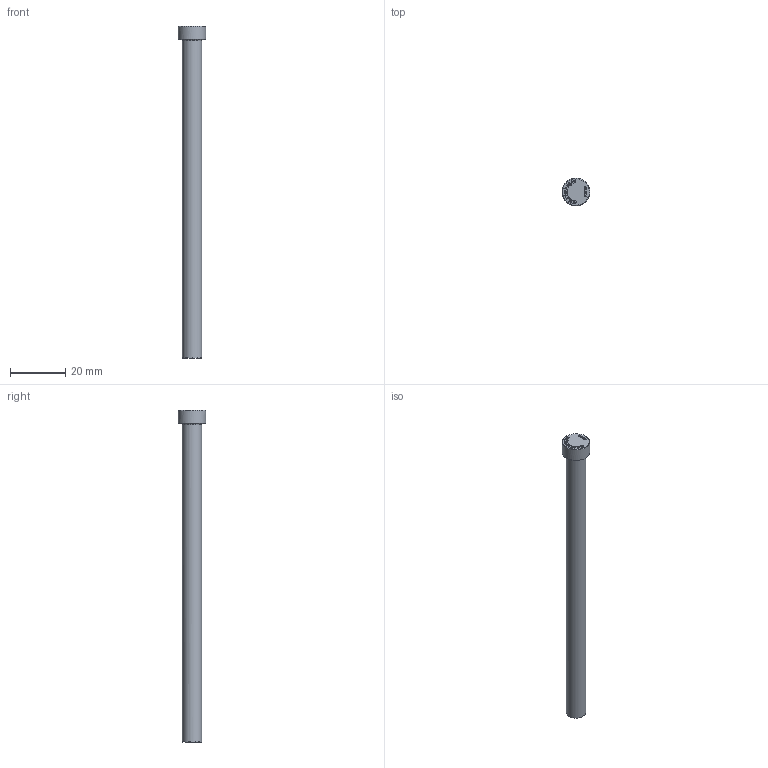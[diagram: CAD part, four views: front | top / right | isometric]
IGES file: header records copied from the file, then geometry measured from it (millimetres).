
Start section: C
Global section: file name: PNI07120.igs; native system: By Siemens PLM Incorporated; preprocessor: XPlus GENERIC/IGES 18.0.17; author: Author; organization: Title; date: 20240726.165020; units: millimetre
Bounding box: 10 x 10 x 120 mm (x, y, z)
Volume: 4837.6 mm3; surface area: 2845.7 mm2
Topology: 1 solids, 1 shells, 246 faces, 645 edges, 429 vertices
Faces by surface type: bspline 246
